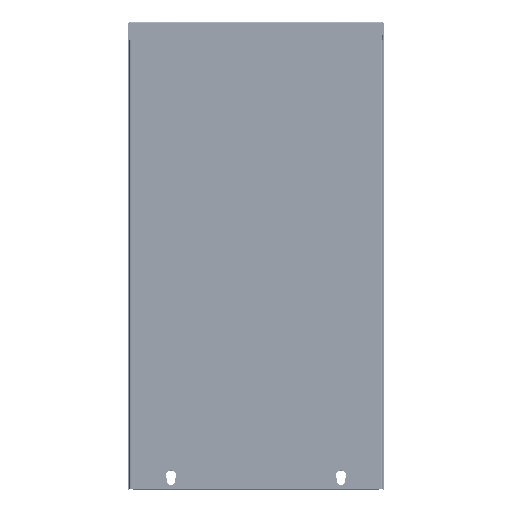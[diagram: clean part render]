
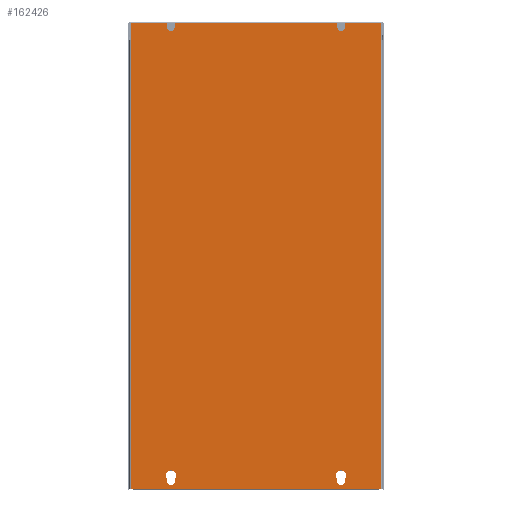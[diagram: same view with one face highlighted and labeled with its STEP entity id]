
A CAD part, front view. The second image highlights one B-rep face of the part: STEP entity #162426.
In plain terms, the highlighted planar face has unit normal (0, -1, 0).
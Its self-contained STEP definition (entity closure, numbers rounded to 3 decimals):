
#160557=DIRECTION('',(0.,0.,-1.));
#160558=VECTOR('',#160557,527.8);
#160559=CARTESIAN_POINT('',(-147.1,-122.576,254.));
#160560=LINE('',#160559,#160558);
#160571=DIRECTION('',(0.,0.,-1.));
#160572=VECTOR('',#160571,5.3);
#160573=CARTESIAN_POINT('',(-104.3,-122.576,273.8));
#160574=LINE('',#160573,#160572);
#160578=CARTESIAN_POINT('',(-100.,-122.576,268.5));
#160579=DIRECTION('',(0.,-1.,0.));
#160580=DIRECTION('',(-1.,0.,0.));
#160581=AXIS2_PLACEMENT_3D('',#160578,#160579,#160580);
#160586=DIRECTION('',(0.,0.,-1.));
#160587=VECTOR('',#160586,5.3);
#160588=CARTESIAN_POINT('',(95.7,-122.576,273.8));
#160589=LINE('',#160588,#160587);
#160593=CARTESIAN_POINT('',(100.,-122.576,268.5));
#160594=DIRECTION('',(0.,-1.,0.));
#160595=DIRECTION('',(-1.,0.,0.));
#160596=AXIS2_PLACEMENT_3D('',#160593,#160594,#160595);
#160601=DIRECTION('',(0.,0.,-1.));
#160602=VECTOR('',#160601,19.8);
#160603=CARTESIAN_POINT('',(147.1,-122.576,273.8));
#160604=LINE('',#160603,#160602);
#160608=DIRECTION('',(-1.,0.,0.));
#160609=VECTOR('',#160608,3.);
#160610=CARTESIAN_POINT('',(147.1,-122.576,-273.8));
#160611=LINE('',#160610,#160609);
#160615=DIRECTION('',(-1.,0.,0.));
#160616=VECTOR('',#160615,3.);
#160617=CARTESIAN_POINT('',(-144.1,-122.576,-273.8));
#160618=LINE('',#160617,#160616);
#160622=CARTESIAN_POINT('',(100.,-122.576,-265.));
#160623=DIRECTION('',(0.,-1.,0.));
#160624=DIRECTION('',(-1.,0.,0.));
#160625=AXIS2_PLACEMENT_3D('',#160622,#160623,#160624);
#160630=DIRECTION('',(0.,0.,1.));
#160631=VECTOR('',#160630,3.031);
#160632=CARTESIAN_POINT('',(104.5,-122.576,-265.));
#160633=LINE('',#160632,#160631);
#160637=CARTESIAN_POINT('',(100.,-122.576,-258.));
#160638=DIRECTION('',(0.,-1.,0.));
#160639=DIRECTION('',(0.75,0.,-0.661));
#160640=AXIS2_PLACEMENT_3D('',#160637,#160638,#160639);
#160645=CARTESIAN_POINT('',(100.,-122.576,-258.));
#160646=DIRECTION('',(0.,-1.,0.));
#160647=DIRECTION('',(1.,0.,0.));
#160648=AXIS2_PLACEMENT_3D('',#160645,#160646,#160647);
#160653=CARTESIAN_POINT('',(100.,-122.576,-258.));
#160654=DIRECTION('',(0.,-1.,0.));
#160655=DIRECTION('',(-1.,0.,0.));
#160656=AXIS2_PLACEMENT_3D('',#160653,#160654,#160655);
#160661=DIRECTION('',(0.,0.,-1.));
#160662=VECTOR('',#160661,3.031);
#160663=CARTESIAN_POINT('',(95.5,-122.576,-261.969));
#160664=LINE('',#160663,#160662);
#160668=CARTESIAN_POINT('',(-100.,-122.576,-265.));
#160669=DIRECTION('',(0.,-1.,0.));
#160670=DIRECTION('',(-1.,0.,0.));
#160671=AXIS2_PLACEMENT_3D('',#160668,#160669,#160670);
#160676=DIRECTION('',(0.,0.,1.));
#160677=VECTOR('',#160676,3.031);
#160678=CARTESIAN_POINT('',(-95.5,-122.576,-265.));
#160679=LINE('',#160678,#160677);
#160683=CARTESIAN_POINT('',(-100.,-122.576,-258.));
#160684=DIRECTION('',(0.,-1.,0.));
#160685=DIRECTION('',(0.75,0.,-0.661));
#160686=AXIS2_PLACEMENT_3D('',#160683,#160684,#160685);
#160691=CARTESIAN_POINT('',(-100.,-122.576,-258.));
#160692=DIRECTION('',(0.,-1.,0.));
#160693=DIRECTION('',(1.,0.,0.));
#160694=AXIS2_PLACEMENT_3D('',#160691,#160692,#160693);
#160699=CARTESIAN_POINT('',(-100.,-122.576,-258.));
#160700=DIRECTION('',(0.,-1.,0.));
#160701=DIRECTION('',(-1.,0.,0.));
#160702=AXIS2_PLACEMENT_3D('',#160699,#160700,#160701);
#160707=DIRECTION('',(0.,0.,-1.));
#160708=VECTOR('',#160707,3.031);
#160709=CARTESIAN_POINT('',(-104.5,-122.576,-261.969));
#160710=LINE('',#160709,#160708);
#160737=DIRECTION('',(-1.,0.,0.));
#160738=VECTOR('',#160737,42.8);
#160739=CARTESIAN_POINT('',(-104.3,-122.576,273.8));
#160740=LINE('',#160739,#160738);
#160774=DIRECTION('',(0.,0.,-1.));
#160775=VECTOR('',#160774,19.8);
#160776=CARTESIAN_POINT('',(-147.1,-122.576,273.8));
#160777=LINE('',#160776,#160775);
#161119=DIRECTION('',(1.,0.,0.));
#161120=VECTOR('',#161119,288.2);
#161121=CARTESIAN_POINT('',(-144.1,-122.576,-273.8));
#161122=LINE('',#161121,#161120);
#161406=DIRECTION('',(0.,0.,1.));
#161407=VECTOR('',#161406,527.8);
#161408=CARTESIAN_POINT('',(147.1,-122.576,-273.8));
#161409=LINE('',#161408,#161407);
#161508=DIRECTION('',(-1.,0.,0.));
#161509=VECTOR('',#161508,42.8);
#161510=CARTESIAN_POINT('',(147.1,-122.576,273.8));
#161511=LINE('',#161510,#161509);
#161515=DIRECTION('',(0.,0.,-1.));
#161516=VECTOR('',#161515,5.3);
#161517=CARTESIAN_POINT('',(104.3,-122.576,273.8));
#161518=LINE('',#161517,#161516);
#161582=DIRECTION('',(-1.,0.,0.));
#161583=VECTOR('',#161582,191.4);
#161584=CARTESIAN_POINT('',(95.7,-122.576,273.8));
#161585=LINE('',#161584,#161583);
#161589=DIRECTION('',(0.,0.,-1.));
#161590=VECTOR('',#161589,5.3);
#161591=CARTESIAN_POINT('',(-95.7,-122.576,273.8));
#161592=LINE('',#161591,#161590);
#161971=CARTESIAN_POINT('',(-147.1,-122.576,-273.8));
#161972=VERTEX_POINT('',#161971);
#161975=CARTESIAN_POINT('',(-147.1,-122.576,254.));
#161976=VERTEX_POINT('',#161975);
#161977=CARTESIAN_POINT('',(-104.3,-122.576,273.8));
#161978=CARTESIAN_POINT('',(-104.3,-122.576,268.5));
#161979=VERTEX_POINT('',#161977);
#161980=VERTEX_POINT('',#161978);
#161981=CARTESIAN_POINT('',(-95.7,-122.576,268.5));
#161982=VERTEX_POINT('',#161981);
#161983=CARTESIAN_POINT('',(-95.7,-122.576,273.8));
#161984=VERTEX_POINT('',#161983);
#161985=CARTESIAN_POINT('',(95.7,-122.576,273.8));
#161986=VERTEX_POINT('',#161985);
#161987=CARTESIAN_POINT('',(95.7,-122.576,268.5));
#161988=VERTEX_POINT('',#161987);
#161989=CARTESIAN_POINT('',(104.3,-122.576,268.5));
#161990=VERTEX_POINT('',#161989);
#161991=CARTESIAN_POINT('',(104.3,-122.576,273.8));
#161992=VERTEX_POINT('',#161991);
#161993=CARTESIAN_POINT('',(147.1,-122.576,273.8));
#161994=VERTEX_POINT('',#161993);
#161995=CARTESIAN_POINT('',(147.1,-122.576,254.));
#161996=VERTEX_POINT('',#161995);
#161997=CARTESIAN_POINT('',(147.1,-122.576,-273.8));
#161998=VERTEX_POINT('',#161997);
#161999=CARTESIAN_POINT('',(144.1,-122.576,-273.8));
#162000=VERTEX_POINT('',#161999);
#162001=CARTESIAN_POINT('',(-144.1,-122.576,-273.8));
#162002=VERTEX_POINT('',#162001);
#162003=CARTESIAN_POINT('',(-147.1,-122.576,273.8));
#162004=VERTEX_POINT('',#162003);
#162005=CARTESIAN_POINT('',(95.5,-122.576,-265.));
#162006=CARTESIAN_POINT('',(104.5,-122.576,-265.));
#162007=VERTEX_POINT('',#162005);
#162008=VERTEX_POINT('',#162006);
#162009=CARTESIAN_POINT('',(104.5,-122.576,-261.969));
#162010=VERTEX_POINT('',#162009);
#162011=CARTESIAN_POINT('',(106.,-122.576,-258.));
#162012=VERTEX_POINT('',#162011);
#162013=CARTESIAN_POINT('',(94.,-122.576,-258.));
#162014=VERTEX_POINT('',#162013);
#162015=CARTESIAN_POINT('',(95.5,-122.576,-261.969));
#162016=VERTEX_POINT('',#162015);
#162017=CARTESIAN_POINT('',(-104.5,-122.576,-265.));
#162018=CARTESIAN_POINT('',(-95.5,-122.576,-265.));
#162019=VERTEX_POINT('',#162017);
#162020=VERTEX_POINT('',#162018);
#162021=CARTESIAN_POINT('',(-95.5,-122.576,-261.969));
#162022=VERTEX_POINT('',#162021);
#162023=CARTESIAN_POINT('',(-94.,-122.576,-258.));
#162024=VERTEX_POINT('',#162023);
#162025=CARTESIAN_POINT('',(-106.,-122.576,-258.));
#162026=VERTEX_POINT('',#162025);
#162027=CARTESIAN_POINT('',(-104.5,-122.576,-261.969));
#162028=VERTEX_POINT('',#162027);
#162360=CARTESIAN_POINT('',(-148.8,-122.576,275.));
#162361=DIRECTION('',(0.,1.,0.));
#162362=DIRECTION('',(0.,0.,-1.));
#162363=AXIS2_PLACEMENT_3D('',#162360,#162361,#162362);
#162364=PLANE('',#162363);
#162366=ORIENTED_EDGE('',*,*,#162365,.T.);
#162368=ORIENTED_EDGE('',*,*,#162367,.T.);
#162370=ORIENTED_EDGE('',*,*,#162369,.F.);
#162372=ORIENTED_EDGE('',*,*,#162371,.F.);
#162374=ORIENTED_EDGE('',*,*,#162373,.T.);
#162376=ORIENTED_EDGE('',*,*,#162375,.T.);
#162378=ORIENTED_EDGE('',*,*,#162377,.F.);
#162380=ORIENTED_EDGE('',*,*,#162379,.F.);
#162382=ORIENTED_EDGE('',*,*,#162381,.T.);
#162384=ORIENTED_EDGE('',*,*,#162383,.F.);
#162386=ORIENTED_EDGE('',*,*,#162385,.T.);
#162388=ORIENTED_EDGE('',*,*,#162387,.F.);
#162390=ORIENTED_EDGE('',*,*,#162389,.T.);
#162391=ORIENTED_EDGE('',*,*,#162344,.F.);
#162393=ORIENTED_EDGE('',*,*,#162392,.F.);
#162395=ORIENTED_EDGE('',*,*,#162394,.F.);
#162396=EDGE_LOOP('',(#162366,#162368,#162370,#162372,#162374,#162376,#162378,
#162380,#162382,#162384,#162386,#162388,#162390,#162391,#162393,#162395));
#162397=FACE_OUTER_BOUND('',#162396,.F.);
#162399=ORIENTED_EDGE('',*,*,#162398,.T.);
#162401=ORIENTED_EDGE('',*,*,#162400,.T.);
#162403=ORIENTED_EDGE('',*,*,#162402,.T.);
#162405=ORIENTED_EDGE('',*,*,#162404,.T.);
#162407=ORIENTED_EDGE('',*,*,#162406,.T.);
#162409=ORIENTED_EDGE('',*,*,#162408,.T.);
#162410=EDGE_LOOP('',(#162399,#162401,#162403,#162405,#162407,#162409));
#162411=FACE_BOUND('',#162410,.F.);
#162413=ORIENTED_EDGE('',*,*,#162412,.T.);
#162415=ORIENTED_EDGE('',*,*,#162414,.T.);
#162417=ORIENTED_EDGE('',*,*,#162416,.T.);
#162419=ORIENTED_EDGE('',*,*,#162418,.T.);
#162421=ORIENTED_EDGE('',*,*,#162420,.T.);
#162423=ORIENTED_EDGE('',*,*,#162422,.T.);
#162424=EDGE_LOOP('',(#162413,#162415,#162417,#162419,#162421,#162423));
#162425=FACE_BOUND('',#162424,.F.);
#160582=CIRCLE('',#160581,4.3);
#160597=CIRCLE('',#160596,4.3);
#160626=CIRCLE('',#160625,4.5);
#160641=CIRCLE('',#160640,6.);
#160649=CIRCLE('',#160648,6.);
#160657=CIRCLE('',#160656,6.);
#160672=CIRCLE('',#160671,4.5);
#160687=CIRCLE('',#160686,6.);
#160695=CIRCLE('',#160694,6.);
#160703=CIRCLE('',#160702,6.);
#162344=EDGE_CURVE('',#161976,#161972,#160560,.T.);
#162365=EDGE_CURVE('',#161979,#161980,#160574,.T.);
#162367=EDGE_CURVE('',#161980,#161982,#160582,.T.);
#162369=EDGE_CURVE('',#161984,#161982,#161592,.T.);
#162371=EDGE_CURVE('',#161986,#161984,#161585,.T.);
#162373=EDGE_CURVE('',#161986,#161988,#160589,.T.);
#162375=EDGE_CURVE('',#161988,#161990,#160597,.T.);
#162377=EDGE_CURVE('',#161992,#161990,#161518,.T.);
#162379=EDGE_CURVE('',#161994,#161992,#161511,.T.);
#162381=EDGE_CURVE('',#161994,#161996,#160604,.T.);
#162383=EDGE_CURVE('',#161998,#161996,#161409,.T.);
#162385=EDGE_CURVE('',#161998,#162000,#160611,.T.);
#162387=EDGE_CURVE('',#162002,#162000,#161122,.T.);
#162389=EDGE_CURVE('',#162002,#161972,#160618,.T.);
#162392=EDGE_CURVE('',#162004,#161976,#160777,.T.);
#162394=EDGE_CURVE('',#161979,#162004,#160740,.T.);
#162398=EDGE_CURVE('',#162007,#162008,#160626,.T.);
#162400=EDGE_CURVE('',#162008,#162010,#160633,.T.);
#162402=EDGE_CURVE('',#162010,#162012,#160641,.T.);
#162404=EDGE_CURVE('',#162012,#162014,#160649,.T.);
#162406=EDGE_CURVE('',#162014,#162016,#160657,.T.);
#162408=EDGE_CURVE('',#162016,#162007,#160664,.T.);
#162412=EDGE_CURVE('',#162019,#162020,#160672,.T.);
#162414=EDGE_CURVE('',#162020,#162022,#160679,.T.);
#162416=EDGE_CURVE('',#162022,#162024,#160687,.T.);
#162418=EDGE_CURVE('',#162024,#162026,#160695,.T.);
#162420=EDGE_CURVE('',#162026,#162028,#160703,.T.);
#162422=EDGE_CURVE('',#162028,#162019,#160710,.T.);
#162426=ADVANCED_FACE('',(#162397,#162411,#162425),#162364,.F.);
